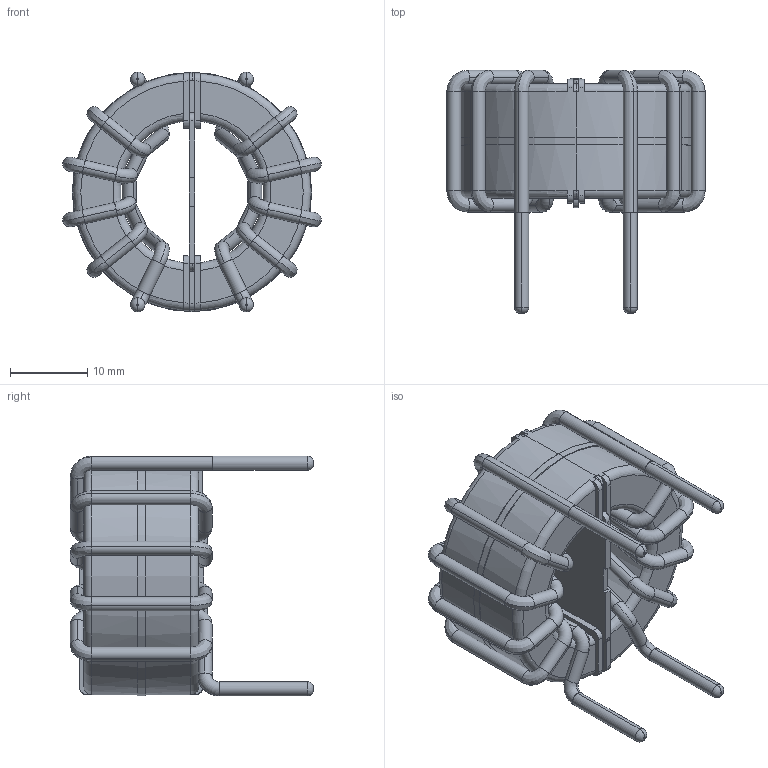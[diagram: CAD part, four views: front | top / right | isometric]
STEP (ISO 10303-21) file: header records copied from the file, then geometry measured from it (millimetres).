
FILE_DESCRIPTION (( 'STEP AP203' ), '1' );
FILE_NAME ('HL-H-151U-20A.STEP', '2020-07-29T13:25:35', ( 'Windows User' ), ( '' ), 'SwSTEP 2.0', 'SolidWorks 2015', '' );
FILE_SCHEMA (( 'CONFIG_CONTROL_DESIGN' ));
Length unit declared in the file: inch
Products named in the file (4): HL-H-151U-20A - COIL; HL-H-151U-20A; HL-H-151U-20A - CORE; HL-H-151U-20A - FRAME
Assembly tree (3 placements, depth 2):
  HL-H-151U-20A
    HL-H-151U-20A - CORE
    HL-H-151U-20A - COIL
    HL-H-151U-20A - FRAME
Bounding box: 33.5 x 31.52 x 31.1 mm (x, y, z)
Volume: 8730 mm3; surface area: 7095.3 mm2
Topology: 10 solids, 10 shells, 309 faces, 793 edges, 504 vertices
Faces by surface type: cylinder 110, torus 83, plane 64, bspline 52
Entity records: 13238 total; most frequent: CARTESIAN_POINT 5392, DIRECTION 1642, ORIENTED_EDGE 1586, EDGE_CURVE 793, AXIS2_PLACEMENT_3D 710, VERTEX_POINT 504, CIRCLE 447, EDGE_LOOP 311
